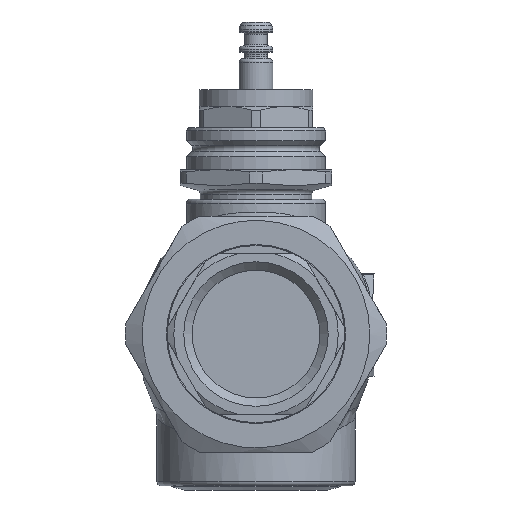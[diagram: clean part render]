
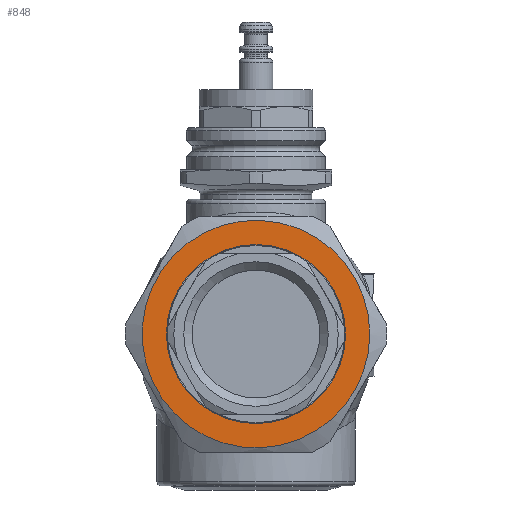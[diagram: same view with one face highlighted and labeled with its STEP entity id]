
A CAD part, left-side view. The second image highlights one B-rep face of the part: STEP entity #848.
In plain terms, the highlighted planar face has unit normal (-1, 0, 0).
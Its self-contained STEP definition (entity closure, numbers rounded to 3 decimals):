
#409=PLANE('',#3550);
#643=FACE_BOUND('',#1306,.T.);
#644=FACE_BOUND('',#1307,.T.);
#848=ADVANCED_FACE('',(#643,#644),#409,.T.);
#1306=EDGE_LOOP('',(#2150));
#1307=EDGE_LOOP('',(#2151));
#1528=CIRCLE('',#3548,21.25);
#1529=CIRCLE('',#3549,27.);
#2150=ORIENTED_EDGE('',*,*,#3022,.T.);
#2151=ORIENTED_EDGE('',*,*,#3023,.T.);
#2642=VERTEX_POINT('',#11096);
#2643=VERTEX_POINT('',#11098);
#3022=EDGE_CURVE('',#2642,#2642,#1528,.T.);
#3023=EDGE_CURVE('',#2643,#2643,#1529,.T.);
#3548=AXIS2_PLACEMENT_3D('',#11095,#4285,#4286);
#3549=AXIS2_PLACEMENT_3D('',#11097,#4287,#4288);
#3550=AXIS2_PLACEMENT_3D('',#11099,#4289,#4290);
#4285=DIRECTION('',(1.,0.,0.));
#4286=DIRECTION('',(0.,1.,0.));
#4287=DIRECTION('',(-1.,0.,0.));
#4288=DIRECTION('',(0.,-1.,0.));
#4289=DIRECTION('',(-1.,0.,0.));
#4290=DIRECTION('',(0.,-1.,0.));
#11095=CARTESIAN_POINT('',(37.,0.,100.));
#11096=CARTESIAN_POINT('',(37.,21.25,100.));
#11097=CARTESIAN_POINT('',(37.,0.,100.));
#11098=CARTESIAN_POINT('',(37.,-27.,100.));
#11099=CARTESIAN_POINT('',(37.,0.,100.));
